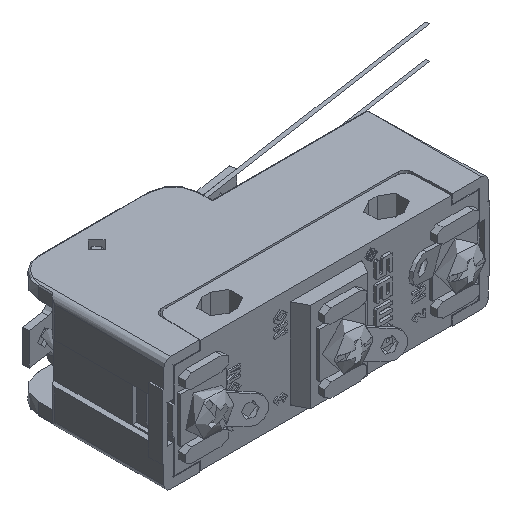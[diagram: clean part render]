
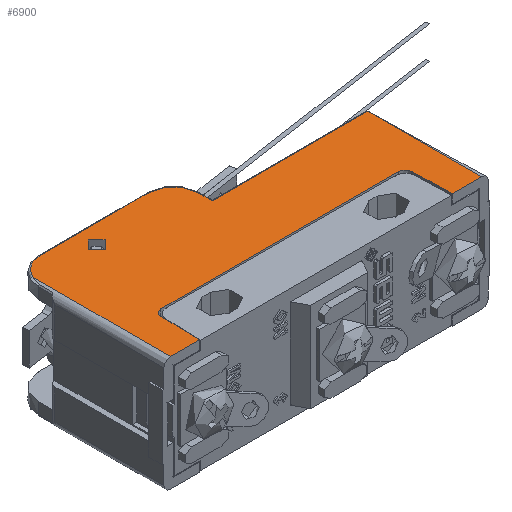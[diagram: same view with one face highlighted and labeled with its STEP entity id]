
A CAD part, isometric view. The second image highlights one B-rep face of the part: STEP entity #6900.
In plain terms, the highlighted planar face has unit normal (0, 0, 1).
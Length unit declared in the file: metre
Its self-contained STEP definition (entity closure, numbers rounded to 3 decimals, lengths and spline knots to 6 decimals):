
#6122=CARTESIAN_POINT('',(-0.011767,0.013867,0.05815));
#6123=DIRECTION('',(0.,0.,1.));
#6124=DIRECTION('',(1.,0.,0.));
#6125=AXIS2_PLACEMENT_3D('',#6122,#6123,#6124);
#6126=CIRCLE('',#6125,0.0013);
#6127=CARTESIAN_POINT('',(-0.013067,0.013867,0.05815));
#6128=VERTEX_POINT('',#6127);
#6129=EDGE_CURVE('',#6128,#6128,#6126,.T.);
#6156=CARTESIAN_POINT('',(0.022323,-0.000607,0.05815));
#6157=VERTEX_POINT('',#6156);
#6160=CARTESIAN_POINT('',(0.021323,-0.000633,0.05815));
#6161=DIRECTION('',(0.,0.,1.));
#6162=DIRECTION('',(1.,0.,0.));
#6163=AXIS2_PLACEMENT_3D('',#6160,#6161,#6162);
#6164=CIRCLE('',#6163,0.001);
#6165=CARTESIAN_POINT('',(0.021323,0.000367,0.05815));
#6166=VERTEX_POINT('',#6165);
#6167=EDGE_CURVE('',#6157,#6166,#6164,.T.);
#6201=CARTESIAN_POINT('',(-0.015357,0.000367,0.05815));
#6202=DIRECTION('',(-1.,0.,0.));
#6203=VECTOR('',#6202,1.);
#6204=LINE('',#6201,#6203);
#6205=CARTESIAN_POINT('',(-0.015357,0.000367,0.05815));
#6206=VERTEX_POINT('',#6205);
#6207=EDGE_CURVE('',#6166,#6206,#6204,.T.);
#6240=CARTESIAN_POINT('',(-0.015357,-0.000633,0.05815));
#6241=DIRECTION('',(0.,0.,1.));
#6242=DIRECTION('',(1.,0.,0.));
#6243=AXIS2_PLACEMENT_3D('',#6240,#6241,#6242);
#6244=CIRCLE('',#6243,0.001);
#6245=CARTESIAN_POINT('',(-0.016356,-0.000607,0.05815));
#6246=VERTEX_POINT('',#6245);
#6247=EDGE_CURVE('',#6206,#6246,#6244,.T.);
#6281=CARTESIAN_POINT('',(-0.016517,-0.006733,0.05815));
#6282=DIRECTION('',(-0.026,-1.,0.));
#6283=VECTOR('',#6282,1.);
#6284=LINE('',#6281,#6283);
#6285=CARTESIAN_POINT('',(-0.016517,-0.006733,0.05815));
#6286=VERTEX_POINT('',#6285);
#6287=EDGE_CURVE('',#6246,#6286,#6284,.T.);
#6563=CARTESIAN_POINT('',(-0.020992,-0.006733,0.05815));
#6564=VERTEX_POINT('',#6563);
#6567=CARTESIAN_POINT('',(-0.020992,0.011067,0.05815));
#6568=DIRECTION('',(0.,-1.,0.));
#6569=VECTOR('',#6568,1.);
#6570=LINE('',#6567,#6569);
#6571=CARTESIAN_POINT('',(-0.020992,0.014524,0.05815));
#6572=VERTEX_POINT('',#6571);
#6573=EDGE_CURVE('',#6572,#6564,#6570,.T.);
#6645=CARTESIAN_POINT('',(-0.017537,0.016817,0.05815));
#6646=VERTEX_POINT('',#6645);
#6667=CARTESIAN_POINT('',(-0.017537,0.013067,0.05815));
#6668=DIRECTION('',(0.,0.,-1.));
#6669=DIRECTION('',(-1.,0.,0.));
#6670=AXIS2_PLACEMENT_3D('',#6667,#6668,#6669);
#6671=CIRCLE('',#6670,0.00375);
#6672=EDGE_CURVE('',#6572,#6646,#6671,.T.);
#6695=CARTESIAN_POINT('',(0.026508,0.010817,0.05815));
#6696=VERTEX_POINT('',#6695);
#6714=CARTESIAN_POINT('',(0.003009,0.010817,0.05815));
#6715=VERTEX_POINT('',#6714);
#6718=CARTESIAN_POINT('',(0.003259,0.010817,0.05815));
#6719=DIRECTION('',(1.,0.,0.));
#6720=VECTOR('',#6719,1.);
#6721=LINE('',#6718,#6720);
#6722=EDGE_CURVE('',#6715,#6696,#6721,.T.);
#6754=CARTESIAN_POINT('',(0.003009,0.013067,0.05815));
#6755=VERTEX_POINT('',#6754);
#6758=CARTESIAN_POINT('',(0.003009,0.013067,0.05815));
#6759=DIRECTION('',(0.,1.,0.));
#6760=VECTOR('',#6759,1.);
#6761=LINE('',#6758,#6760);
#6762=EDGE_CURVE('',#6715,#6755,#6761,.T.);
#6795=CARTESIAN_POINT('',(-0.000741,0.016817,0.05815));
#6796=VERTEX_POINT('',#6795);
#6799=CARTESIAN_POINT('',(-0.000741,0.013067,0.05815));
#6800=DIRECTION('',(0.,0.,-1.));
#6801=DIRECTION('',(-1.,0.,0.));
#6802=AXIS2_PLACEMENT_3D('',#6799,#6800,#6801);
#6803=CIRCLE('',#6802,0.00375);
#6804=EDGE_CURVE('',#6796,#6755,#6803,.T.);
#6830=CARTESIAN_POINT('',(-0.017537,0.016817,0.05815));
#6831=DIRECTION('',(-1.,0.,0.));
#6832=VECTOR('',#6831,1.);
#6833=LINE('',#6830,#6832);
#6834=EDGE_CURVE('',#6796,#6646,#6833,.T.);
#6847=CARTESIAN_POINT('',(-0.021992,0.011067,0.05815));
#6848=DIRECTION('',(0.,0.,-1.));
#6849=DIRECTION('',(-1.,0.,0.));
#6850=AXIS2_PLACEMENT_3D('',#6847,#6848,#6849);
#6851=PLANE('',#6850);
#6852=ORIENTED_EDGE('',*,*,#6834,.T.);
#6853=ORIENTED_EDGE('',*,*,#6672,.F.);
#6854=ORIENTED_EDGE('',*,*,#6573,.T.);
#6855=CARTESIAN_POINT('',(-0.021992,-0.006733,0.05815));
#6856=DIRECTION('',(1.,0.,0.));
#6857=VECTOR('',#6856,1.);
#6858=LINE('',#6855,#6857);
#6859=EDGE_CURVE('',#6564,#6286,#6858,.T.);
#6860=ORIENTED_EDGE('',*,*,#6859,.T.);
#6861=ORIENTED_EDGE('',*,*,#6287,.F.);
#6862=ORIENTED_EDGE('',*,*,#6247,.F.);
#6863=ORIENTED_EDGE('',*,*,#6207,.F.);
#6864=ORIENTED_EDGE('',*,*,#6167,.F.);
#6865=CARTESIAN_POINT('',(0.022483,-0.006733,0.05815));
#6866=DIRECTION('',(-0.026,1.,0.));
#6867=VECTOR('',#6866,1.);
#6868=LINE('',#6865,#6867);
#6869=CARTESIAN_POINT('',(0.022483,-0.006733,0.05815));
#6870=VERTEX_POINT('',#6869);
#6871=EDGE_CURVE('',#6870,#6157,#6868,.T.);
#6872=ORIENTED_EDGE('',*,*,#6871,.F.);
#6873=CARTESIAN_POINT('',(0.027008,-0.006733,0.05815));
#6874=VERTEX_POINT('',#6873);
#6875=EDGE_CURVE('',#6870,#6874,#6858,.T.);
#6876=ORIENTED_EDGE('',*,*,#6875,.T.);
#6877=CARTESIAN_POINT('',(0.027008,0.011067,0.05815));
#6878=DIRECTION('',(0.,-1.,0.));
#6879=VECTOR('',#6878,1.);
#6880=LINE('',#6877,#6879);
#6881=CARTESIAN_POINT('',(0.027008,0.010713,0.05815));
#6882=VERTEX_POINT('',#6881);
#6883=EDGE_CURVE('',#6882,#6874,#6880,.T.);
#6884=ORIENTED_EDGE('',*,*,#6883,.F.);
#6885=CARTESIAN_POINT('',(0.026508,0.009567,0.05815));
#6886=DIRECTION('',(0.,0.,-1.));
#6887=DIRECTION('',(-1.,0.,0.));
#6888=AXIS2_PLACEMENT_3D('',#6885,#6886,#6887);
#6889=CIRCLE('',#6888,0.00125);
#6890=EDGE_CURVE('',#6696,#6882,#6889,.T.);
#6891=ORIENTED_EDGE('',*,*,#6890,.F.);
#6892=ORIENTED_EDGE('',*,*,#6722,.F.);
#6893=ORIENTED_EDGE('',*,*,#6762,.T.);
#6894=ORIENTED_EDGE('',*,*,#6804,.F.);
#6895=EDGE_LOOP('',(#6852,#6853,#6854,#6860,#6861,#6862,#6863,#6864,#6872,#6876,#6884,#6891,#6892,#6893,#6894));
#6896=FACE_BOUND('',#6895,.T.);
#6897=ORIENTED_EDGE('',*,*,#6129,.F.);
#6898=EDGE_LOOP('',(#6897));
#6899=FACE_BOUND('',#6898,.T.);
#6900=ADVANCED_FACE('',(#6896,#6899),#6851,.F.);
